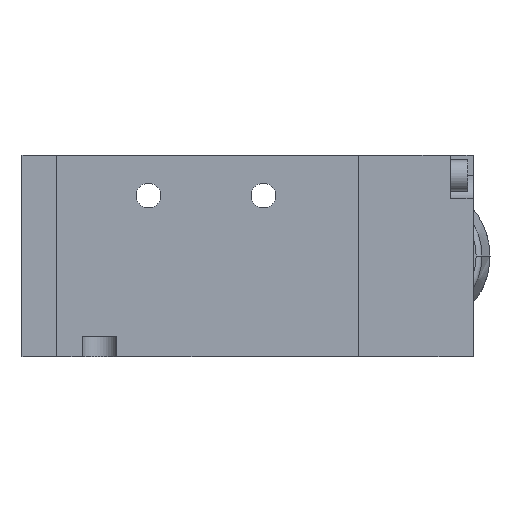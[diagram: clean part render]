
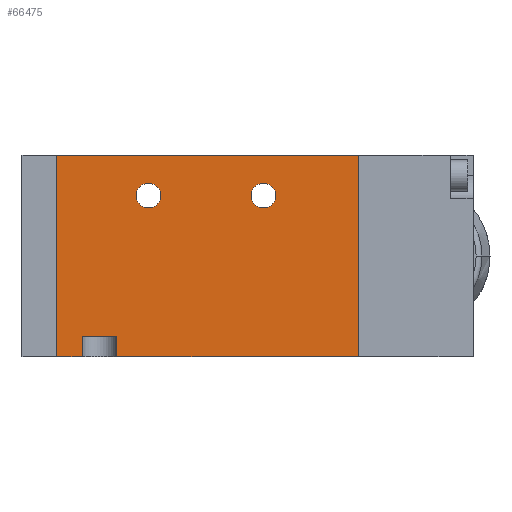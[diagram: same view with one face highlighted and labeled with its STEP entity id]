
A CAD part, front view. The second image highlights one B-rep face of the part: STEP entity #66475.
In plain terms, the highlighted planar face has unit normal (0, -1, 0).
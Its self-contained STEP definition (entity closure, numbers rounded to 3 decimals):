
#1640 = EDGE_CURVE ( 'NONE', #15775, #35879, #20464, .T. ) ;
#1822 = VERTEX_POINT ( 'NONE', #57657 ) ;
#2138 = FACE_OUTER_BOUND ( 'NONE', #45993, .T. ) ;
#2464 = DIRECTION ( 'NONE',  ( 0., 0., -1. ) ) ;
#3476 = DIRECTION ( 'NONE',  ( 0., 0., 1. ) ) ;
#3689 = LINE ( 'NONE', #60292, #54302 ) ;
#3733 = CARTESIAN_POINT ( 'NONE',  ( -17.25, 0., 10.5 ) ) ;
#4674 = LINE ( 'NONE', #41281, #26643 ) ;
#5132 = CARTESIAN_POINT ( 'NONE',  ( 19.25, 0., -17.5 ) ) ;
#5671 = DIRECTION ( 'NONE',  ( 0., 0., 1. ) ) ;
#7299 = DIRECTION ( 'NONE',  ( 0., 1., 0. ) ) ;
#7361 = VECTOR ( 'NONE', #20821, 1000. ) ;
#8045 = VECTOR ( 'NONE', #13577, 1000. ) ;
#8592 = ORIENTED_EDGE ( 'NONE', *, *, #59662, .F. ) ;
#9705 = VERTEX_POINT ( 'NONE', #30336 ) ;
#10081 = EDGE_CURVE ( 'NONE', #16269, #35952, #50171, .T. ) ;
#10371 = EDGE_LOOP ( 'NONE', ( #40960, #61908 ) ) ;
#13231 = VERTEX_POINT ( 'NONE', #16480 ) ;
#13577 = DIRECTION ( 'NONE',  ( -1., 0., 0. ) ) ;
#15775 = VERTEX_POINT ( 'NONE', #5132 ) ;
#16269 = VERTEX_POINT ( 'NONE', #49775 ) ;
#16480 = CARTESIAN_POINT ( 'NONE',  ( -22.75, 0., -14. ) ) ;
#17256 = LINE ( 'NONE', #27953, #55989 ) ;
#17375 = EDGE_CURVE ( 'NONE', #40818, #1822, #24599, .T. ) ;
#17405 = CARTESIAN_POINT ( 'NONE',  ( -22.75, 0., -14. ) ) ;
#17659 = CARTESIAN_POINT ( 'NONE',  ( -33.25, 0., 0. ) ) ;
#17996 = FACE_BOUND ( 'NONE', #50450, .T. ) ;
#18272 = VERTEX_POINT ( 'NONE', #47821 ) ;
#18498 = VERTEX_POINT ( 'NONE', #61534 ) ;
#19098 = ORIENTED_EDGE ( 'NONE', *, *, #22288, .F. ) ;
#19139 = AXIS2_PLACEMENT_3D ( 'NONE', #34889, #7299, #3476 ) ;
#19426 = CARTESIAN_POINT ( 'NONE',  ( 2.75, 0., 10.5 ) ) ;
#20464 = LINE ( 'NONE', #68092, #7361 ) ;
#20821 = DIRECTION ( 'NONE',  ( -1., 0., 0. ) ) ;
#21732 = AXIS2_PLACEMENT_3D ( 'NONE', #19426, #34971, #35313 ) ;
#22288 = EDGE_CURVE ( 'NONE', #18272, #16269, #3689, .T. ) ;
#24023 = EDGE_CURVE ( 'NONE', #9705, #58933, #27347, .T. ) ;
#24599 = CIRCLE ( 'NONE', #19139, 2.15 ) ;
#25289 = EDGE_CURVE ( 'NONE', #35952, #58407, #42548, .T. ) ;
#26008 = ORIENTED_EDGE ( 'NONE', *, *, #65308, .F. ) ;
#26643 = VECTOR ( 'NONE', #41960, 1000. ) ;
#27347 = CIRCLE ( 'NONE', #65877, 2.15 ) ;
#27953 = CARTESIAN_POINT ( 'NONE',  ( -39.25, 0., 17.5 ) ) ;
#28318 = AXIS2_PLACEMENT_3D ( 'NONE', #3733, #29279, #60333 ) ;
#29098 = EDGE_CURVE ( 'NONE', #1822, #40818, #50320, .T. ) ;
#29279 = DIRECTION ( 'NONE',  ( 0., 1., 0. ) ) ;
#30003 = CARTESIAN_POINT ( 'NONE',  ( -22.75, 0., -17.5 ) ) ;
#30336 = CARTESIAN_POINT ( 'NONE',  ( 2.75, 0., 8.35 ) ) ;
#31983 = EDGE_CURVE ( 'NONE', #58933, #9705, #55833, .T. ) ;
#32269 = LINE ( 'NONE', #17405, #35995 ) ;
#32591 = DIRECTION ( 'NONE',  ( 0., 1., 0. ) ) ;
#33552 = CARTESIAN_POINT ( 'NONE',  ( 0., 0., 0. ) ) ;
#34889 = CARTESIAN_POINT ( 'NONE',  ( -17.25, 0., 10.5 ) ) ;
#34971 = DIRECTION ( 'NONE',  ( 0., 1., 0. ) ) ;
#35313 = DIRECTION ( 'NONE',  ( 0., 0., 1. ) ) ;
#35382 = VECTOR ( 'NONE', #35883, 1000. ) ;
#35879 = VERTEX_POINT ( 'NONE', #30003 ) ;
#35883 = DIRECTION ( 'NONE',  ( -1., 0., 0. ) ) ;
#35952 = VERTEX_POINT ( 'NONE', #62417 ) ;
#35995 = VECTOR ( 'NONE', #63655, 1000. ) ;
#36520 = ORIENTED_EDGE ( 'NONE', *, *, #25289, .F. ) ;
#37130 = ORIENTED_EDGE ( 'NONE', *, *, #29098, .T. ) ;
#38405 = ORIENTED_EDGE ( 'NONE', *, *, #66356, .T. ) ;
#38705 = DIRECTION ( 'NONE',  ( 0., 0., 1. ) ) ;
#40818 = VERTEX_POINT ( 'NONE', #60520 ) ;
#40960 = ORIENTED_EDGE ( 'NONE', *, *, #31983, .T. ) ;
#41281 = CARTESIAN_POINT ( 'NONE',  ( 19.25, 0., 0. ) ) ;
#41404 = LINE ( 'NONE', #62092, #35382 ) ;
#41960 = DIRECTION ( 'NONE',  ( 0., 0., 1. ) ) ;
#42548 = LINE ( 'NONE', #17659, #59338 ) ;
#43830 = DIRECTION ( 'NONE',  ( 1., 0., 0. ) ) ;
#45122 = ORIENTED_EDGE ( 'NONE', *, *, #1640, .F. ) ;
#45166 = CARTESIAN_POINT ( 'NONE',  ( 2.75, 0., 12.65 ) ) ;
#45993 = EDGE_LOOP ( 'NONE', ( #51274, #45122, #38405, #8592, #36520, #62171, #19098, #26008 ) ) ;
#46102 = EDGE_CURVE ( 'NONE', #13231, #35879, #32269, .T. ) ;
#47821 = CARTESIAN_POINT ( 'NONE',  ( -28.75, 0., -14. ) ) ;
#47891 = CARTESIAN_POINT ( 'NONE',  ( -33.25, 0., 17.5 ) ) ;
#49775 = CARTESIAN_POINT ( 'NONE',  ( -28.75, 0., -17.5 ) ) ;
#49951 = DIRECTION ( 'NONE',  ( 0., 0., -1. ) ) ;
#50171 = LINE ( 'NONE', #66034, #8045 ) ;
#50320 = CIRCLE ( 'NONE', #28318, 2.15 ) ;
#50450 = EDGE_LOOP ( 'NONE', ( #37130, #51231 ) ) ;
#51231 = ORIENTED_EDGE ( 'NONE', *, *, #17375, .T. ) ;
#51274 = ORIENTED_EDGE ( 'NONE', *, *, #46102, .T. ) ;
#53281 = CARTESIAN_POINT ( 'NONE',  ( 2.75, 0., 10.5 ) ) ;
#54302 = VECTOR ( 'NONE', #49951, 1000. ) ;
#55240 = PLANE ( 'NONE',  #61868 ) ;
#55833 = CIRCLE ( 'NONE', #21732, 2.15 ) ;
#55989 = VECTOR ( 'NONE', #43830, 1000. ) ;
#57657 = CARTESIAN_POINT ( 'NONE',  ( -17.25, 0., 12.65 ) ) ;
#58407 = VERTEX_POINT ( 'NONE', #47891 ) ;
#58933 = VERTEX_POINT ( 'NONE', #45166 ) ;
#59338 = VECTOR ( 'NONE', #38705, 1000. ) ;
#59662 = EDGE_CURVE ( 'NONE', #58407, #18498, #17256, .T. ) ;
#60087 = FACE_BOUND ( 'NONE', #10371, .T. ) ;
#60292 = CARTESIAN_POINT ( 'NONE',  ( -28.75, 0., -14. ) ) ;
#60333 = DIRECTION ( 'NONE',  ( 0., 0., 1. ) ) ;
#60427 = DIRECTION ( 'NONE',  ( 0., -1., 0. ) ) ;
#60520 = CARTESIAN_POINT ( 'NONE',  ( -17.25, 0., 8.35 ) ) ;
#61534 = CARTESIAN_POINT ( 'NONE',  ( 19.25, 0., 17.5 ) ) ;
#61868 = AXIS2_PLACEMENT_3D ( 'NONE', #33552, #60427, #2464 ) ;
#61908 = ORIENTED_EDGE ( 'NONE', *, *, #24023, .T. ) ;
#62092 = CARTESIAN_POINT ( 'NONE',  ( -22.75, 0., -14. ) ) ;
#62171 = ORIENTED_EDGE ( 'NONE', *, *, #10081, .F. ) ;
#62417 = CARTESIAN_POINT ( 'NONE',  ( -33.25, 0., -17.5 ) ) ;
#63655 = DIRECTION ( 'NONE',  ( 0., 0., -1. ) ) ;
#65308 = EDGE_CURVE ( 'NONE', #13231, #18272, #41404, .T. ) ;
#65877 = AXIS2_PLACEMENT_3D ( 'NONE', #53281, #32591, #5671 ) ;
#66034 = CARTESIAN_POINT ( 'NONE',  ( -39.25, 0., -17.5 ) ) ;
#66356 = EDGE_CURVE ( 'NONE', #15775, #18498, #4674, .T. ) ;
#66475 = ADVANCED_FACE ( 'NONE', ( #2138, #17996, #60087 ), #55240, .T. ) ;
#68092 = CARTESIAN_POINT ( 'NONE',  ( -39.25, 0., -17.5 ) ) ;
